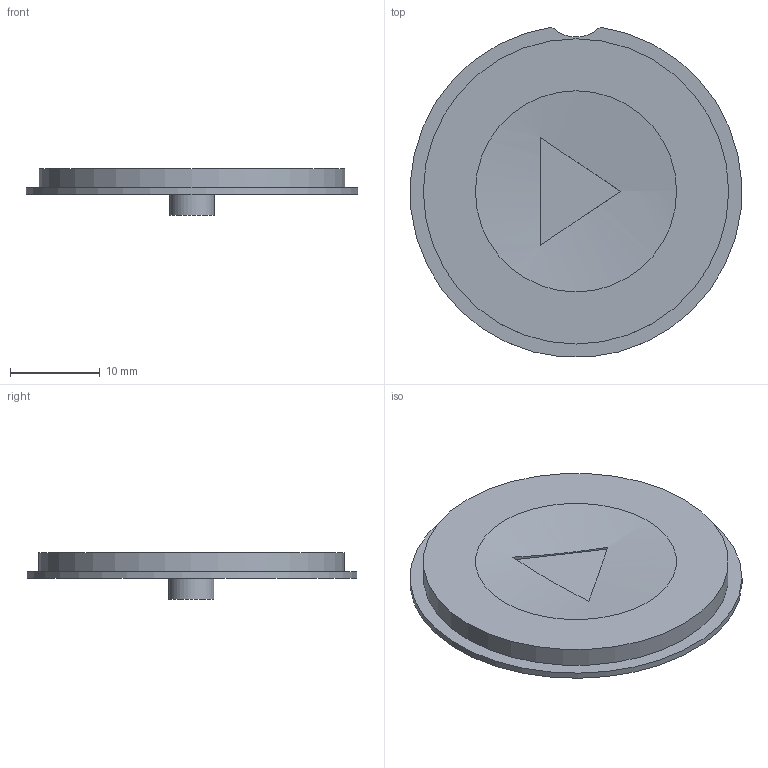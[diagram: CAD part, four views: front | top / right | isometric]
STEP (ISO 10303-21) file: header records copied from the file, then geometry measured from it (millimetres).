
FILE_DESCRIPTION(('Open CASCADE Model'),'2;1');
FILE_NAME('Open CASCADE Shape Model','2026-09-06T11:28:54',('Author'),( 'Open CASCADE'),'Open CASCADE STEP processor 7.7','Open CASCADE 7.7' ,'Unknown');
FILE_SCHEMA(('AUTOMOTIVE_DESIGN { 1 0 10303 214 1 1 1 1 }'));
Length unit declared in the file: millimetre
Products named in the file (1): Open CASCADE STEP translator 7.7 21
Bounding box: 36.94 x 36.74 x 5.2 mm (x, y, z)
Volume: 2600.4 mm3; surface area: 2498.2 mm2
Topology: 1 solids, 1 shells, 13 faces, 23 edges, 15 vertices
Faces by surface type: plane 8, cylinder 4, sphere 1
Full cylindrical faces by diameter (mm): 5 x1, 34 x1
Entity records: 818 total; most frequent: CARTESIAN_POINT 311, DIRECTION 99, ORIENTED_EDGE 46, PCURVE 46, DEFINITIONAL_REPRESENTATION 46, LINE 37, VECTOR 37, AXIS2_PLACEMENT_3D 27
